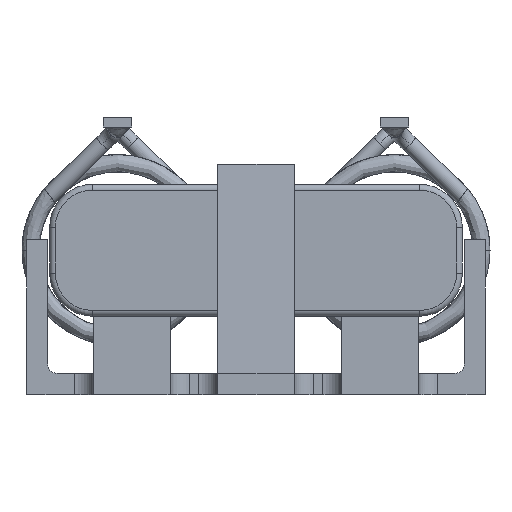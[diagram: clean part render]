
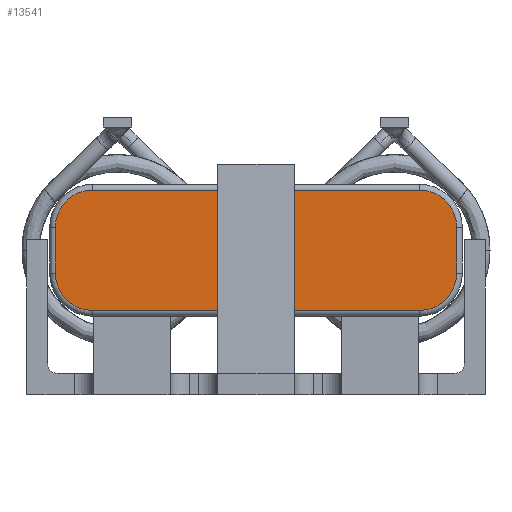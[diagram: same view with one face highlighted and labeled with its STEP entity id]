
A CAD part, front view. The second image highlights one B-rep face of the part: STEP entity #13541.
In plain terms, the highlighted planar face has unit normal (0, -1, 0).
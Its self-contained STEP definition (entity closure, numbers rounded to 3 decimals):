
#188 = EDGE_CURVE ( 'NONE', #6070, #16583, #8296, .T. ) ;
#499 = CARTESIAN_POINT ( 'NONE',  ( 25.087, -16.168, -3.15 ) ) ;
#578 = DIRECTION ( 'NONE',  ( 0., 0., 1. ) ) ;
#1156 = VERTEX_POINT ( 'NONE', #6985 ) ;
#1357 = ORIENTED_EDGE ( 'NONE', *, *, #12895, .T. ) ;
#1370 = EDGE_CURVE ( 'NONE', #4359, #6070, #5097, .T. ) ;
#1456 = AXIS2_PLACEMENT_3D ( 'NONE', #13756, #6105, #2451 ) ;
#1481 = EDGE_CURVE ( 'NONE', #9356, #4359, #2252, .T. ) ;
#2163 = CARTESIAN_POINT ( 'NONE',  ( 46.387, -16.168, 1.2 ) ) ;
#2252 = CIRCLE ( 'NONE', #16253, 1.95 ) ;
#2451 = DIRECTION ( 'NONE',  ( 0., 0., 1. ) ) ;
#2580 = CIRCLE ( 'NONE', #16227, 1.95 ) ;
#3908 = ORIENTED_EDGE ( 'NONE', *, *, #1481, .T. ) ;
#4177 = DIRECTION ( 'NONE',  ( 0., -1., 0. ) ) ;
#4333 = FACE_OUTER_BOUND ( 'NONE', #6833, .T. ) ;
#4359 = VERTEX_POINT ( 'NONE', #13719 ) ;
#4435 = DIRECTION ( 'NONE',  ( 1., 0., 0. ) ) ;
#5034 = CARTESIAN_POINT ( 'NONE',  ( 44.437, -16.168, 3.15 ) ) ;
#5097 = LINE ( 'NONE', #499, #13264 ) ;
#5397 = ORIENTED_EDGE ( 'NONE', *, *, #7569, .T. ) ;
#5433 = ORIENTED_EDGE ( 'NONE', *, *, #7283, .T. ) ;
#5749 = CARTESIAN_POINT ( 'NONE',  ( 27.337, -16.168, 3.15 ) ) ;
#5819 = DIRECTION ( 'NONE',  ( 1., 0., 0. ) ) ;
#6070 = VERTEX_POINT ( 'NONE', #13245 ) ;
#6105 = DIRECTION ( 'NONE',  ( 0., -1., 0. ) ) ;
#6120 = EDGE_CURVE ( 'NONE', #16619, #13785, #15006, .T. ) ;
#6152 = VECTOR ( 'NONE', #14610, 1000. ) ;
#6357 = ORIENTED_EDGE ( 'NONE', *, *, #1370, .T. ) ;
#6486 = EDGE_CURVE ( 'NONE', #13785, #10247, #7754, .T. ) ;
#6624 = CARTESIAN_POINT ( 'NONE',  ( 27.337, -16.168, -1.2 ) ) ;
#6833 = EDGE_LOOP ( 'NONE', ( #1357, #16210, #13735, #5397, #5433, #3908, #6357, #8249 ) ) ;
#6985 = CARTESIAN_POINT ( 'NONE',  ( 25.387, -16.168, 1.2 ) ) ;
#7028 = CARTESIAN_POINT ( 'NONE',  ( 46.387, -16.168, 3.45 ) ) ;
#7128 = DIRECTION ( 'NONE',  ( 0., 1., 0. ) ) ;
#7283 = EDGE_CURVE ( 'NONE', #1156, #9356, #15184, .T. ) ;
#7569 = EDGE_CURVE ( 'NONE', #10247, #1156, #2580, .T. ) ;
#7754 = LINE ( 'NONE', #5749, #6152 ) ;
#8249 = ORIENTED_EDGE ( 'NONE', *, *, #188, .T. ) ;
#8296 = CIRCLE ( 'NONE', #1456, 1.95 ) ;
#8307 = VECTOR ( 'NONE', #12534, 1000. ) ;
#8710 = DIRECTION ( 'NONE',  ( 0., 0., 1. ) ) ;
#8957 = AXIS2_PLACEMENT_3D ( 'NONE', #10786, #12132, #578 ) ;
#9356 = VERTEX_POINT ( 'NONE', #16187 ) ;
#9385 = DIRECTION ( 'NONE',  ( 0., 0., 1. ) ) ;
#9644 = CARTESIAN_POINT ( 'NONE',  ( 25.087, -16.168, 3.45 ) ) ;
#10247 = VERTEX_POINT ( 'NONE', #14600 ) ;
#10548 = DIRECTION ( 'NONE',  ( 0., 0., 1. ) ) ;
#10566 = VECTOR ( 'NONE', #8710, 1000. ) ;
#10616 = CARTESIAN_POINT ( 'NONE',  ( 27.337, -16.168, 1.2 ) ) ;
#10786 = CARTESIAN_POINT ( 'NONE',  ( 44.437, -16.168, 1.2 ) ) ;
#11121 = AXIS2_PLACEMENT_3D ( 'NONE', #9644, #7128, #5819 ) ;
#11323 = CARTESIAN_POINT ( 'NONE',  ( 25.387, -16.168, 3.45 ) ) ;
#11759 = CARTESIAN_POINT ( 'NONE',  ( 46.387, -16.168, -1.2 ) ) ;
#12132 = DIRECTION ( 'NONE',  ( 0., -1., 0. ) ) ;
#12362 = LINE ( 'NONE', #7028, #10566 ) ;
#12534 = DIRECTION ( 'NONE',  ( 0., 0., -1. ) ) ;
#12895 = EDGE_CURVE ( 'NONE', #16583, #16619, #12362, .T. ) ;
#13245 = CARTESIAN_POINT ( 'NONE',  ( 44.437, -16.168, -3.15 ) ) ;
#13264 = VECTOR ( 'NONE', #4435, 1000. ) ;
#13541 = ADVANCED_FACE ( 'NONE', ( #4333 ), #13683, .F. ) ;
#13683 = PLANE ( 'NONE',  #11121 ) ;
#13719 = CARTESIAN_POINT ( 'NONE',  ( 27.337, -16.168, -3.15 ) ) ;
#13735 = ORIENTED_EDGE ( 'NONE', *, *, #6486, .T. ) ;
#13756 = CARTESIAN_POINT ( 'NONE',  ( 44.437, -16.168, -1.2 ) ) ;
#13785 = VERTEX_POINT ( 'NONE', #5034 ) ;
#14600 = CARTESIAN_POINT ( 'NONE',  ( 27.337, -16.168, 3.15 ) ) ;
#14610 = DIRECTION ( 'NONE',  ( -1., 0., 0. ) ) ;
#15006 = CIRCLE ( 'NONE', #8957, 1.95 ) ;
#15184 = LINE ( 'NONE', #11323, #8307 ) ;
#15777 = DIRECTION ( 'NONE',  ( 0., -1., 0. ) ) ;
#16187 = CARTESIAN_POINT ( 'NONE',  ( 25.387, -16.168, -1.2 ) ) ;
#16210 = ORIENTED_EDGE ( 'NONE', *, *, #6120, .T. ) ;
#16227 = AXIS2_PLACEMENT_3D ( 'NONE', #10616, #15777, #9385 ) ;
#16253 = AXIS2_PLACEMENT_3D ( 'NONE', #6624, #4177, #10548 ) ;
#16583 = VERTEX_POINT ( 'NONE', #11759 ) ;
#16619 = VERTEX_POINT ( 'NONE', #2163 ) ;
